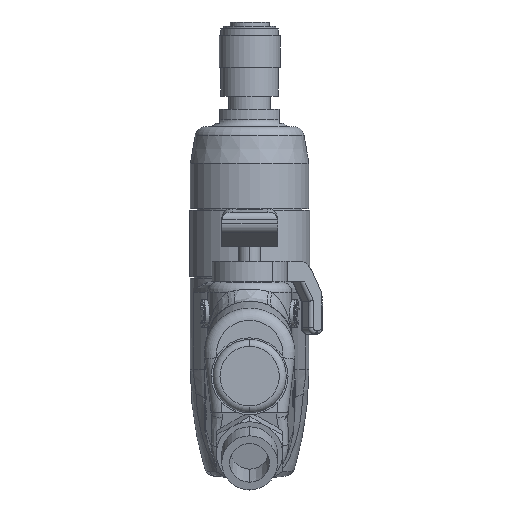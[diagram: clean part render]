
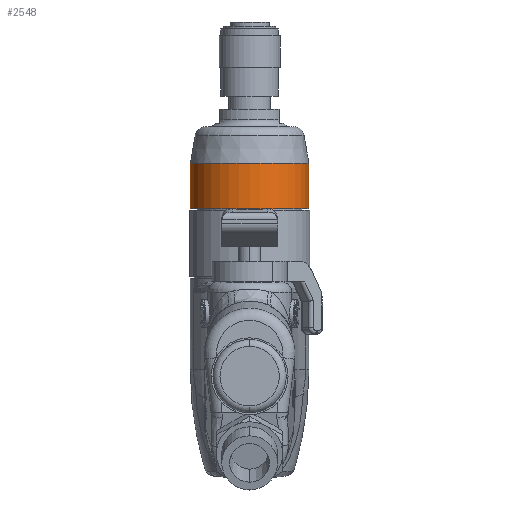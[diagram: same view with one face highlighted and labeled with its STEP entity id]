
A CAD part, front view. The second image highlights one B-rep face of the part: STEP entity #2548.
In plain terms, the highlighted cylindrical face has radius 17 mm (diameter 34 mm), a partial arc.
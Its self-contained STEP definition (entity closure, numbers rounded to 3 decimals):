
#2329 = EDGE_CURVE ( 'NONE', #2463, #2462, #13801, .T. ) ;
#2462 = VERTEX_POINT ( 'NONE', #13995 ) ;
#2463 = VERTEX_POINT ( 'NONE', #13994 ) ;
#2465 = EDGE_CURVE ( 'NONE', #2463, #2466, #13993, .T. ) ;
#2466 = VERTEX_POINT ( 'NONE', #13989 ) ;
#2469 = VERTEX_POINT ( 'NONE', #14046 ) ;
#2494 = EDGE_CURVE ( 'NONE', #2466, #2469, #14061, .T. ) ;
#2495 = EDGE_LOOP ( 'NONE', ( #2549, #2550, #2551, #2552 ) ) ;
#2524 = EDGE_CURVE ( 'NONE', #2462, #2469, #14141, .T. ) ;
#2548 = ADVANCED_FACE ( 'NONE', ( #14153 ), #14211, .T. ) ;
#2549 = ORIENTED_EDGE ( 'NONE', *, *, #2465, .F. ) ;
#2550 = ORIENTED_EDGE ( 'NONE', *, *, #2329, .T. ) ;
#2551 = ORIENTED_EDGE ( 'NONE', *, *, #2524, .T. ) ;
#2552 = ORIENTED_EDGE ( 'NONE', *, *, #2494, .F. ) ;
#13763 = CARTESIAN_POINT ( 'NONE',  ( 0., 0., -28.5 ) ) ;
#13798 = DIRECTION ( 'NONE',  ( 1., 0., 0. ) ) ;
#13799 = DIRECTION ( 'NONE',  ( 0., 0., 1. ) ) ;
#13800 = AXIS2_PLACEMENT_3D ( 'NONE', #13763, #13799, #13798 ) ;
#13801 = CIRCLE ( 'NONE', #13800, 17. ) ;
#13989 = CARTESIAN_POINT ( 'NONE',  ( -17., 0., -15.5 ) ) ;
#13990 = DIRECTION ( 'NONE',  ( 0., 0., 1. ) ) ;
#13991 = VECTOR ( 'NONE', #13990, 1000. ) ;
#13992 = CARTESIAN_POINT ( 'NONE',  ( -17., 0., 14.899 ) ) ;
#13993 = LINE ( 'NONE', #13992, #13991 ) ;
#13994 = CARTESIAN_POINT ( 'NONE',  ( -17., 0., -28.5 ) ) ;
#13995 = CARTESIAN_POINT ( 'NONE',  ( 17., 0., -28.5 ) ) ;
#14046 = CARTESIAN_POINT ( 'NONE',  ( 17., 0., -15.5 ) ) ;
#14057 = DIRECTION ( 'NONE',  ( 1., 0., 0. ) ) ;
#14058 = DIRECTION ( 'NONE',  ( 0., 0., 1. ) ) ;
#14059 = CARTESIAN_POINT ( 'NONE',  ( 0., 0., -15.5 ) ) ;
#14060 = AXIS2_PLACEMENT_3D ( 'NONE', #14059, #14058, #14057 ) ;
#14061 = CIRCLE ( 'NONE', #14060, 17. ) ;
#14133 = DIRECTION ( 'NONE',  ( 0., 0., 1. ) ) ;
#14134 = VECTOR ( 'NONE', #14133, 1000. ) ;
#14135 = CARTESIAN_POINT ( 'NONE',  ( 17., 0., 14.899 ) ) ;
#14141 = LINE ( 'NONE', #14135, #14134 ) ;
#14153 = FACE_OUTER_BOUND ( 'NONE', #2495, .T. ) ;
#14208 = DIRECTION ( 'NONE',  ( 1., 0., 0. ) ) ;
#14209 = DIRECTION ( 'NONE',  ( 0., 0., 1. ) ) ;
#14210 = AXIS2_PLACEMENT_3D ( 'NONE', #14213, #14209, #14208 ) ;
#14211 = CYLINDRICAL_SURFACE ( 'NONE', #14210, 17. ) ;
#14213 = CARTESIAN_POINT ( 'NONE',  ( 0., 0., 14.899 ) ) ;
